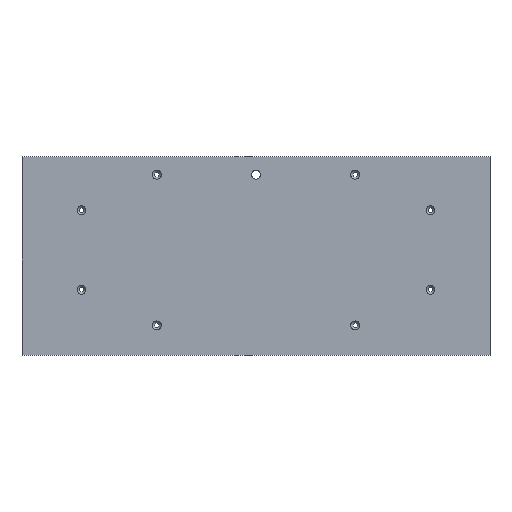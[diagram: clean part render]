
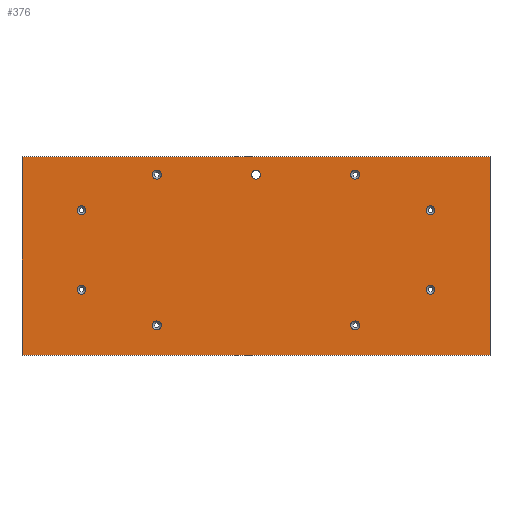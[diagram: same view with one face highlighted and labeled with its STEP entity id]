
A CAD part, top view. The second image highlights one B-rep face of the part: STEP entity #376.
In plain terms, the highlighted planar face has unit normal (0, 0, 1).
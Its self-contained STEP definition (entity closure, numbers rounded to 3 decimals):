
#2 = EDGE_CURVE ( 'NONE', #438, #438, #60, .T. ) ;
#7 = AXIS2_PLACEMENT_3D ( 'NONE', #311, #458, #204 ) ;
#9 = VERTEX_POINT ( 'NONE', #389 ) ;
#12 = DIRECTION ( 'NONE',  ( -1., 0., 0. ) ) ;
#18 = CARTESIAN_POINT ( 'NONE',  ( -180.5, -34., 6. ) ) ;
#19 = LINE ( 'NONE', #134, #178 ) ;
#25 = FACE_BOUND ( 'NONE', #259, .T. ) ;
#26 = AXIS2_PLACEMENT_3D ( 'NONE', #578, #44, #319 ) ;
#27 = LINE ( 'NONE', #561, #159 ) ;
#44 = DIRECTION ( 'NONE',  ( 0., 0., -1. ) ) ;
#45 = LINE ( 'NONE', #266, #428 ) ;
#47 = EDGE_CURVE ( 'NONE', #581, #591, #19, .T. ) ;
#60 = CIRCLE ( 'NONE', #86, 4.5 ) ;
#77 = CARTESIAN_POINT ( 'NONE',  ( 95.5, -70., 6. ) ) ;
#78 = DIRECTION ( 'NONE',  ( 0., 0., -1. ) ) ;
#80 = VERTEX_POINT ( 'NONE', #18 ) ;
#86 = AXIS2_PLACEMENT_3D ( 'NONE', #239, #362, #192 ) ;
#88 = FACE_BOUND ( 'NONE', #554, .T. ) ;
#92 = ORIENTED_EDGE ( 'NONE', *, *, #625, .T. ) ;
#93 = FACE_OUTER_BOUND ( 'NONE', #545, .T. ) ;
#102 = ORIENTED_EDGE ( 'NONE', *, *, #269, .T. ) ;
#106 = CARTESIAN_POINT ( 'NONE',  ( -236., 100., 6. ) ) ;
#122 = ORIENTED_EDGE ( 'NONE', *, *, #291, .T. ) ;
#123 = DIRECTION ( 'NONE',  ( 0., 0., -1. ) ) ;
#128 = VERTEX_POINT ( 'NONE', #77 ) ;
#129 = CIRCLE ( 'NONE', #608, 4.5 ) ;
#130 = FACE_BOUND ( 'NONE', #277, .T. ) ;
#133 = LINE ( 'NONE', #473, #431 ) ;
#134 = CARTESIAN_POINT ( 'NONE',  ( -236., -100., 6. ) ) ;
#139 = VERTEX_POINT ( 'NONE', #240 ) ;
#143 = CARTESIAN_POINT ( 'NONE',  ( 176., 46., 6. ) ) ;
#146 = ORIENTED_EDGE ( 'NONE', *, *, #47, .T. ) ;
#151 = EDGE_CURVE ( 'NONE', #220, #418, #27, .T. ) ;
#152 = DIRECTION ( 'NONE',  ( 0., 0., -1. ) ) ;
#157 = AXIS2_PLACEMENT_3D ( 'NONE', #316, #152, #205 ) ;
#159 = VECTOR ( 'NONE', #460, 1000. ) ;
#161 = CARTESIAN_POINT ( 'NONE',  ( 236., 100., 6. ) ) ;
#164 = EDGE_CURVE ( 'NONE', #224, #224, #551, .T. ) ;
#173 = EDGE_CURVE ( 'NONE', #9, #9, #284, .T. ) ;
#178 = VECTOR ( 'NONE', #354, 1000. ) ;
#186 = CIRCLE ( 'NONE', #539, 4.5 ) ;
#187 = FACE_BOUND ( 'NONE', #333, .T. ) ;
#192 = DIRECTION ( 'NONE',  ( -1., 0., 0. ) ) ;
#204 = DIRECTION ( 'NONE',  ( -1., 0., 0. ) ) ;
#205 = DIRECTION ( 'NONE',  ( -1., 0., 0. ) ) ;
#220 = VERTEX_POINT ( 'NONE', #423 ) ;
#224 = VERTEX_POINT ( 'NONE', #498 ) ;
#225 = EDGE_CURVE ( 'NONE', #591, #220, #45, .T. ) ;
#226 = EDGE_LOOP ( 'NONE', ( #522 ) ) ;
#235 = ORIENTED_EDGE ( 'NONE', *, *, #164, .T. ) ;
#239 = CARTESIAN_POINT ( 'NONE',  ( -100., 82., 6. ) ) ;
#240 = CARTESIAN_POINT ( 'NONE',  ( 4.5, 82., 6. ) ) ;
#241 = PLANE ( 'NONE',  #405 ) ;
#243 = AXIS2_PLACEMENT_3D ( 'NONE', #407, #295, #248 ) ;
#244 = VERTEX_POINT ( 'NONE', #513 ) ;
#245 = CIRCLE ( 'NONE', #589, 4.5 ) ;
#248 = DIRECTION ( 'NONE',  ( -1., 0., 0. ) ) ;
#253 = CARTESIAN_POINT ( 'NONE',  ( 95.5, 82., 6. ) ) ;
#259 = EDGE_LOOP ( 'NONE', ( #92 ) ) ;
#266 = CARTESIAN_POINT ( 'NONE',  ( -236., -100., 6. ) ) ;
#269 = EDGE_CURVE ( 'NONE', #244, #244, #338, .T. ) ;
#277 = EDGE_LOOP ( 'NONE', ( #235 ) ) ;
#279 = ORIENTED_EDGE ( 'NONE', *, *, #417, .F. ) ;
#284 = CIRCLE ( 'NONE', #157, 4.5 ) ;
#291 = EDGE_CURVE ( 'NONE', #418, #581, #133, .T. ) ;
#295 = DIRECTION ( 'NONE',  ( 0., 0., -1. ) ) ;
#301 = DIRECTION ( 'NONE',  ( -1., 0., 0. ) ) ;
#307 = DIRECTION ( 'NONE',  ( -1., 0., 0. ) ) ;
#311 = CARTESIAN_POINT ( 'NONE',  ( 100., 82., 6. ) ) ;
#316 = CARTESIAN_POINT ( 'NONE',  ( -100., -70., 6. ) ) ;
#319 = DIRECTION ( 'NONE',  ( -1., 0., 0. ) ) ;
#320 = CIRCLE ( 'NONE', #7, 4.5 ) ;
#331 = ORIENTED_EDGE ( 'NONE', *, *, #225, .T. ) ;
#333 = EDGE_LOOP ( 'NONE', ( #531 ) ) ;
#338 = CIRCLE ( 'NONE', #674, 4.5 ) ;
#339 = DIRECTION ( 'NONE',  ( -1., 0., 0. ) ) ;
#341 = CARTESIAN_POINT ( 'NONE',  ( -236., -100., 6. ) ) ;
#344 = CARTESIAN_POINT ( 'NONE',  ( -176., 46., 6. ) ) ;
#354 = DIRECTION ( 'NONE',  ( 0., -1., 0. ) ) ;
#362 = DIRECTION ( 'NONE',  ( 0., 0., -1. ) ) ;
#365 = FACE_BOUND ( 'NONE', #226, .T. ) ;
#366 = EDGE_CURVE ( 'NONE', #627, #627, #320, .T. ) ;
#376 = ADVANCED_FACE ( 'NONE', ( #632, #623, #25, #617, #130, #187, #88, #365, #582, #93 ), #241, .F. ) ;
#389 = CARTESIAN_POINT ( 'NONE',  ( -104.5, -70., 6. ) ) ;
#401 = EDGE_CURVE ( 'NONE', #128, #128, #461, .T. ) ;
#405 = AXIS2_PLACEMENT_3D ( 'NONE', #406, #78, #301 ) ;
#406 = CARTESIAN_POINT ( 'NONE',  ( 0., 0., 6. ) ) ;
#407 = CARTESIAN_POINT ( 'NONE',  ( 176., -34., 6. ) ) ;
#412 = ORIENTED_EDGE ( 'NONE', *, *, #2, .T. ) ;
#417 = EDGE_CURVE ( 'NONE', #139, #139, #245, .T. ) ;
#418 = VERTEX_POINT ( 'NONE', #161 ) ;
#423 = CARTESIAN_POINT ( 'NONE',  ( 236., -100., 6. ) ) ;
#428 = VECTOR ( 'NONE', #528, 1000. ) ;
#431 = VECTOR ( 'NONE', #573, 1000. ) ;
#435 = DIRECTION ( 'NONE',  ( 0., 0., 1. ) ) ;
#438 = VERTEX_POINT ( 'NONE', #602 ) ;
#451 = EDGE_LOOP ( 'NONE', ( #102 ) ) ;
#452 = ORIENTED_EDGE ( 'NONE', *, *, #665, .T. ) ;
#457 = CARTESIAN_POINT ( 'NONE',  ( -180.5, 46., 6. ) ) ;
#458 = DIRECTION ( 'NONE',  ( 0., 0., -1. ) ) ;
#460 = DIRECTION ( 'NONE',  ( 0., 1., 0. ) ) ;
#461 = CIRCLE ( 'NONE', #26, 4.5 ) ;
#473 = CARTESIAN_POINT ( 'NONE',  ( -236., 100., 6. ) ) ;
#475 = EDGE_LOOP ( 'NONE', ( #452 ) ) ;
#497 = ORIENTED_EDGE ( 'NONE', *, *, #151, .T. ) ;
#498 = CARTESIAN_POINT ( 'NONE',  ( 171.5, -34., 6. ) ) ;
#504 = CARTESIAN_POINT ( 'NONE',  ( -176., -34., 6. ) ) ;
#512 = EDGE_LOOP ( 'NONE', ( #543 ) ) ;
#513 = CARTESIAN_POINT ( 'NONE',  ( 171.5, 46., 6. ) ) ;
#519 = DIRECTION ( 'NONE',  ( 0., 0., -1. ) ) ;
#522 = ORIENTED_EDGE ( 'NONE', *, *, #173, .T. ) ;
#528 = DIRECTION ( 'NONE',  ( 1., 0., 0. ) ) ;
#531 = ORIENTED_EDGE ( 'NONE', *, *, #366, .T. ) ;
#539 = AXIS2_PLACEMENT_3D ( 'NONE', #504, #123, #12 ) ;
#543 = ORIENTED_EDGE ( 'NONE', *, *, #401, .T. ) ;
#545 = EDGE_LOOP ( 'NONE', ( #497, #122, #146, #331 ) ) ;
#551 = CIRCLE ( 'NONE', #243, 4.5 ) ;
#553 = DIRECTION ( 'NONE',  ( 0., 0., -1. ) ) ;
#554 = EDGE_LOOP ( 'NONE', ( #412 ) ) ;
#561 = CARTESIAN_POINT ( 'NONE',  ( 236., -100., 6. ) ) ;
#573 = DIRECTION ( 'NONE',  ( -1., 0., 0. ) ) ;
#575 = VERTEX_POINT ( 'NONE', #457 ) ;
#578 = CARTESIAN_POINT ( 'NONE',  ( 100., -70., 6. ) ) ;
#581 = VERTEX_POINT ( 'NONE', #106 ) ;
#582 = FACE_BOUND ( 'NONE', #512, .T. ) ;
#586 = EDGE_LOOP ( 'NONE', ( #279 ) ) ;
#589 = AXIS2_PLACEMENT_3D ( 'NONE', #647, #435, #651 ) ;
#591 = VERTEX_POINT ( 'NONE', #341 ) ;
#602 = CARTESIAN_POINT ( 'NONE',  ( -104.5, 82., 6. ) ) ;
#608 = AXIS2_PLACEMENT_3D ( 'NONE', #344, #553, #339 ) ;
#617 = FACE_BOUND ( 'NONE', #451, .T. ) ;
#623 = FACE_BOUND ( 'NONE', #475, .T. ) ;
#625 = EDGE_CURVE ( 'NONE', #575, #575, #129, .T. ) ;
#627 = VERTEX_POINT ( 'NONE', #253 ) ;
#632 = FACE_BOUND ( 'NONE', #586, .T. ) ;
#647 = CARTESIAN_POINT ( 'NONE',  ( 0., 82., 6. ) ) ;
#651 = DIRECTION ( 'NONE',  ( 1., 0., 0. ) ) ;
#665 = EDGE_CURVE ( 'NONE', #80, #80, #186, .T. ) ;
#674 = AXIS2_PLACEMENT_3D ( 'NONE', #143, #519, #307 ) ;
